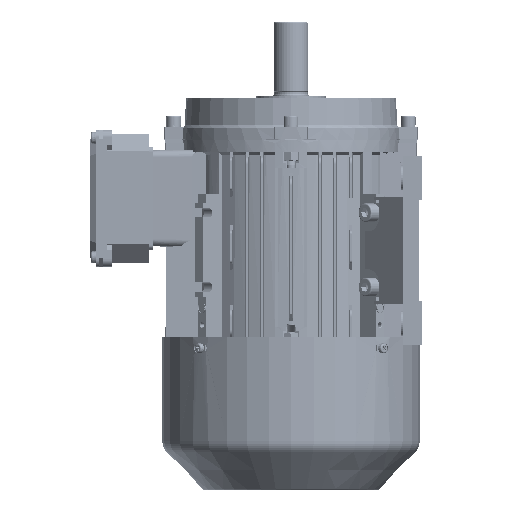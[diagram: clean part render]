
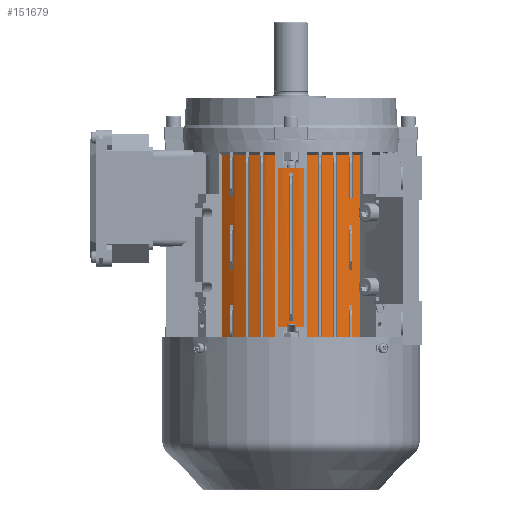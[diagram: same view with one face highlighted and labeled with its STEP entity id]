
A CAD part, left-side view. The second image highlights one B-rep face of the part: STEP entity #151679.
In plain terms, the highlighted cylindrical face has radius 71.192 mm (diameter 142.384 mm), a partial arc.
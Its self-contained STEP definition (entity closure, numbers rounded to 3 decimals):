
#2756 = EDGE_CURVE ( 'NONE', #88135, #144671, #95283, .T. ) ;
#3763 = ORIENTED_EDGE ( 'NONE', *, *, #143501, .T. ) ;
#9981 = AXIS2_PLACEMENT_3D ( 'NONE', #114592, #42005, #116802 ) ;
#13262 = CIRCLE ( 'NONE', #61226, 71.192 ) ;
#14696 = VECTOR ( 'NONE', #123417, 1000. ) ;
#18417 = DIRECTION ( 'NONE',  ( 0., 0., 1. ) ) ;
#18942 = VERTEX_POINT ( 'NONE', #40646 ) ;
#20792 = CARTESIAN_POINT ( 'NONE',  ( 0., 0., -143.977 ) ) ;
#25485 = AXIS2_PLACEMENT_3D ( 'NONE', #142040, #69348, #154246 ) ;
#28108 = LINE ( 'NONE', #94242, #31918 ) ;
#29435 = AXIS2_PLACEMENT_3D ( 'NONE', #42886, #18417, #127705 ) ;
#31918 = VECTOR ( 'NONE', #118692, 1000. ) ;
#33032 = DIRECTION ( 'NONE',  ( 1., 0., 0. ) ) ;
#35802 = CYLINDRICAL_SURFACE ( 'NONE', #29435, 71.192 ) ;
#38609 = CARTESIAN_POINT ( 'NONE',  ( -53.089, -47.433, 0. ) ) ;
#40646 = CARTESIAN_POINT ( 'NONE',  ( -53.089, -47.433, -143.977 ) ) ;
#42005 = DIRECTION ( 'NONE',  ( 0., 0., 1. ) ) ;
#42886 = CARTESIAN_POINT ( 'NONE',  ( 0., 0., 0. ) ) ;
#49256 = VERTEX_POINT ( 'NONE', #156235 ) ;
#56642 = EDGE_CURVE ( 'NONE', #88135, #49256, #28108, .T. ) ;
#61226 = AXIS2_PLACEMENT_3D ( 'NONE', #20792, #105604, #33032 ) ;
#65991 = EDGE_LOOP ( 'NONE', ( #81111, #104649, #155710, #3763, #115892 ) ) ;
#69348 = DIRECTION ( 'NONE',  ( 0., 0., 1. ) ) ;
#71733 = CARTESIAN_POINT ( 'NONE',  ( -53.089, -47.433, -13.023 ) ) ;
#75414 = LINE ( 'NONE', #38609, #14696 ) ;
#81111 = ORIENTED_EDGE ( 'NONE', *, *, #2756, .F. ) ;
#84702 = CIRCLE ( 'NONE', #25485, 71.192 ) ;
#88135 = VERTEX_POINT ( 'NONE', #117260 ) ;
#94242 = CARTESIAN_POINT ( 'NONE',  ( -53.089, 47.433, 0. ) ) ;
#95283 = CIRCLE ( 'NONE', #9981, 71.192 ) ;
#100214 = FACE_OUTER_BOUND ( 'NONE', #65991, .T. ) ;
#104649 = ORIENTED_EDGE ( 'NONE', *, *, #56642, .T. ) ;
#105604 = DIRECTION ( 'NONE',  ( 0., 0., 1. ) ) ;
#114592 = CARTESIAN_POINT ( 'NONE',  ( 0., 0., -13.023 ) ) ;
#114677 = CARTESIAN_POINT ( 'NONE',  ( -71.192, 0., -143.977 ) ) ;
#115892 = ORIENTED_EDGE ( 'NONE', *, *, #126562, .T. ) ;
#116802 = DIRECTION ( 'NONE',  ( 1., 0., 0. ) ) ;
#117260 = CARTESIAN_POINT ( 'NONE',  ( -53.089, 47.433, -13.023 ) ) ;
#118692 = DIRECTION ( 'NONE',  ( 0., 0., -1. ) ) ;
#123417 = DIRECTION ( 'NONE',  ( 0., 0., 1. ) ) ;
#126562 = EDGE_CURVE ( 'NONE', #18942, #144671, #75414, .T. ) ;
#127705 = DIRECTION ( 'NONE',  ( 1., 0., 0. ) ) ;
#142040 = CARTESIAN_POINT ( 'NONE',  ( 0., 0., -143.977 ) ) ;
#143349 = VERTEX_POINT ( 'NONE', #114677 ) ;
#143501 = EDGE_CURVE ( 'NONE', #143349, #18942, #13262, .T. ) ;
#144671 = VERTEX_POINT ( 'NONE', #71733 ) ;
#151679 = ADVANCED_FACE ( 'NONE', ( #100214 ), #35802, .T. ) ;
#153021 = EDGE_CURVE ( 'NONE', #49256, #143349, #84702, .T. ) ;
#154246 = DIRECTION ( 'NONE',  ( 1., 0., 0. ) ) ;
#155710 = ORIENTED_EDGE ( 'NONE', *, *, #153021, .T. ) ;
#156235 = CARTESIAN_POINT ( 'NONE',  ( -53.089, 47.433, -143.977 ) ) ;
